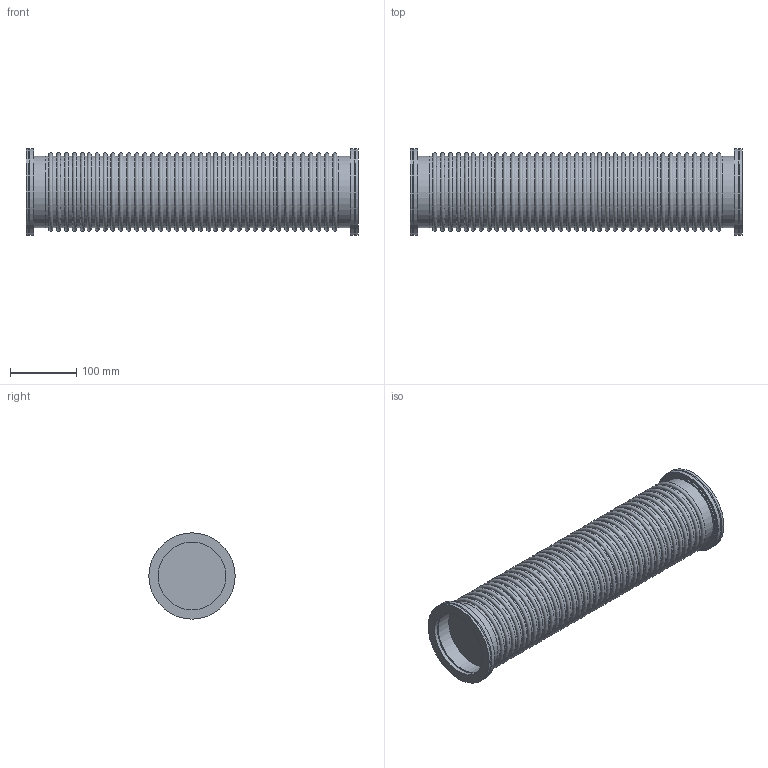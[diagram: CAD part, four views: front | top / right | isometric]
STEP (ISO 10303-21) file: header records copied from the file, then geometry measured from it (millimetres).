
FILE_DESCRIPTION( ( 'Unknown' ), '1' );
FILE_NAME( 'X:/Daten ( aktueller Bestand )/Projekte und Zeichnungen/Solid Edge/STP-Dateien/ISO-K Teile und Zubehör/69124.stp', 'Unknown', ( 'Unknown' ), ( 'Unknown' ), 'PSStep 14.0', 'Unknown', ' ' );
FILE_SCHEMA( ( 'AUTOMOTIVE_DESIGN { 1 0 10303 214 1 1 1 1 }' ) );
Length unit declared in the file: millimetre
Products named in the file (8): 6512; 6522-1; Assem2; 6912-1; Assem1
Assembly tree (8 placements, depth 4):
  Assem1
    6912-1
      6912-1
    Assem2  x2
      6522-1
        6522-1
      6512
        6512
Bounding box: 500 x 130 x 130 mm (x, y, z)
Volume: 4507487.4 mm3; surface area: 369200 mm2
Topology: 5 solids, 5 shells, 111 faces, 206 edges, 111 vertices
Faces by surface type: cylinder 54, torus 39, plane 16, cone 2
Full cylindrical faces by diameter (mm): 102 x4, 108 x40, 108.5 x2, 115 x2, 125 x2, 130 x4
Entity records: 2808 total; most frequent: DIRECTION 400, CARTESIAN_POINT 293, AXIS2_PLACEMENT_3D 200, EDGE_LOOP 186, ORIENTED_EDGE 186, FACE_OUTER_BOUND 178, STYLED_ITEM 94, PRESENTATION_STYLE_ASSIGNMENT 94
